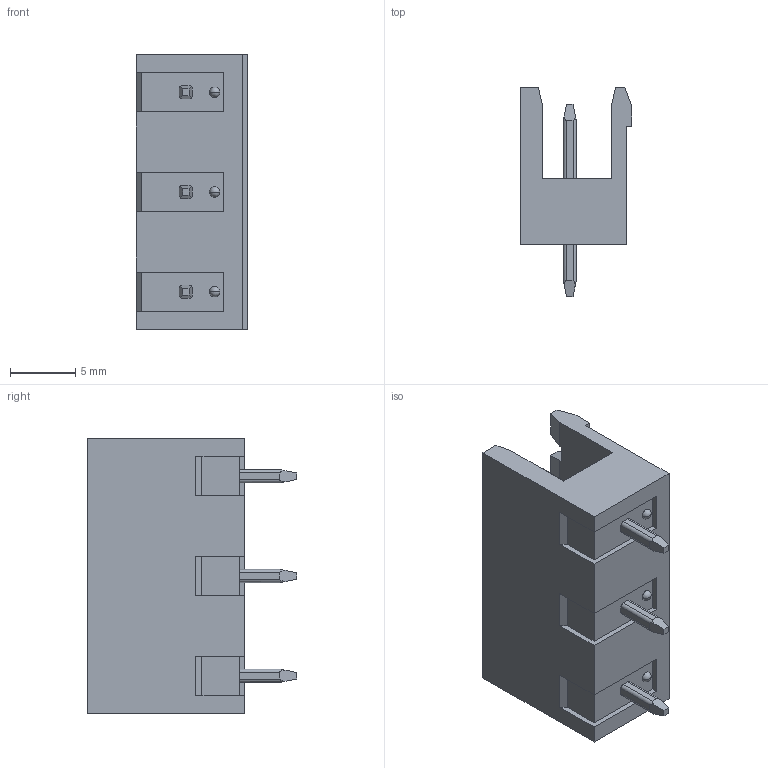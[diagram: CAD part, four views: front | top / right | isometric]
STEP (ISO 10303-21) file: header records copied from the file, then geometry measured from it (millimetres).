
FILE_DESCRIPTION((''),'2;1');
FILE_NAME('33','2019-04-09T',('zhenbing.lai'),(''),'CREO PARAMETRIC BY PTC INC, 2016260','CREO PARAMETRIC BY PTC INC, 2016260','');
FILE_SCHEMA(('CONFIG_CONTROL_DESIGN'));
Length unit declared in the file: millimetre
Products named in the file (1): 33
Bounding box: 8.55 x 16 x 21.06 mm (x, y, z)
Volume: 1201.6 mm3; surface area: 1389.9 mm2
Topology: 1 solids, 1 shells, 147 faces, 405 edges, 263 vertices
Faces by surface type: plane 111, cylinder 27, sphere 6, cone 3
Entity records: 4804 total; most frequent: CARTESIAN_POINT 1117, ORIENTED_EDGE 798, DIRECTION 684, EDGE_CURVE 399, VECTOR 300, LINE 300, VERTEX_POINT 263, AXIS2_PLACEMENT_3D 192
